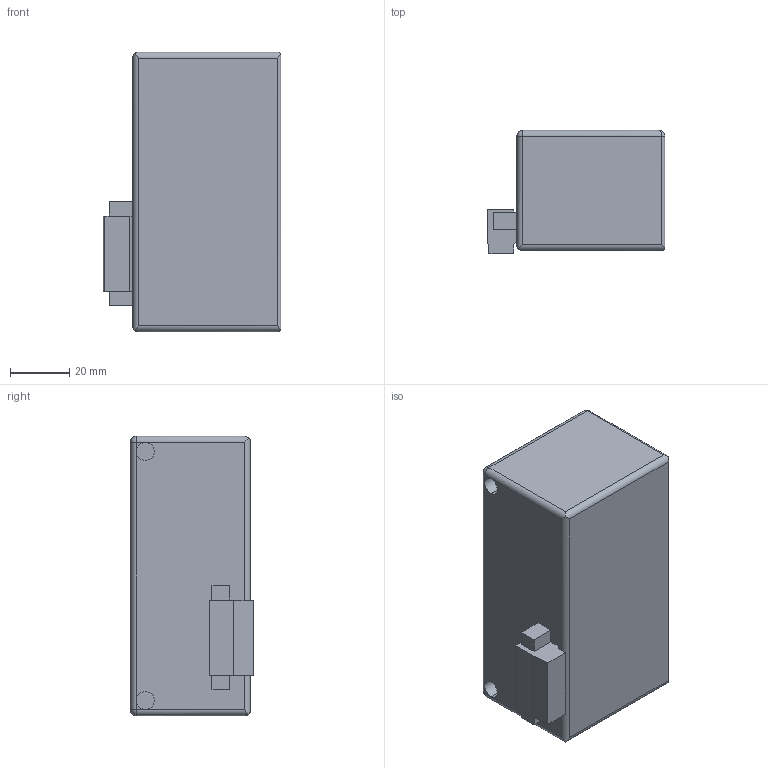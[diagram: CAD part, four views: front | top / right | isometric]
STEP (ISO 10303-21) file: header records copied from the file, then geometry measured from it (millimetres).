
FILE_DESCRIPTION( (''), '2;1');
FILE_NAME ('CVICAD32.25716.YS6Dx_10867.stp','2020-09-09T09:21:11',(''),(''),'spGate 12.6.6','','');
FILE_SCHEMA (('AUTOMOTIVE_DESIGN'));
Length unit declared in the file: millimetre
Bounding box: 60 x 41.5 x 94.4 mm (x, y, z)
Volume: 192663.6 mm3; surface area: 23168.3 mm2
Topology: 1 solids, 1 shells, 44 faces, 113 edges, 68 vertices
Faces by surface type: plane 24, cylinder 16, bspline 2, sphere 2
Entity records: 2355 total; most frequent: CARTESIAN_POINT 451, ORIENTED_EDGE 218, DIRECTION 191, COLOUR_RGB 154, PRESENTATION_STYLE_ASSIGNMENT 154, STYLED_ITEM 154, EDGE_CURVE 109, DRAUGHTING_PRE_DEFINED_CURVE_FONT 109
